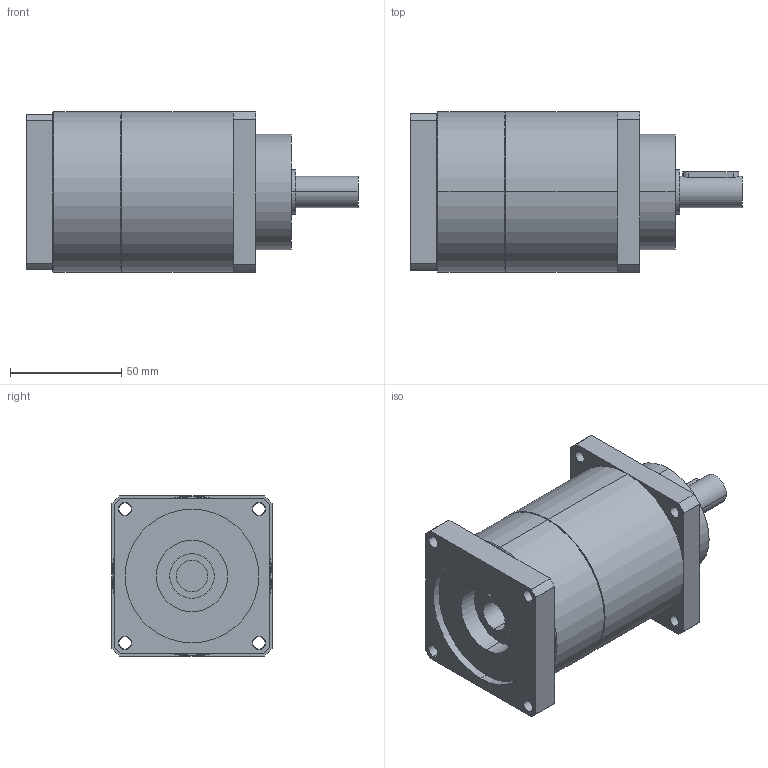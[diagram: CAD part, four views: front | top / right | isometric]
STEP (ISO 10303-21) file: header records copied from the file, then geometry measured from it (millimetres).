
FILE_DESCRIPTION(('CoCreate Modeling STEP Export'),'2;1');
FILE_NAME('GPT75_ig-9-12-16-20-25-28-35-40-50-70-100_14_B5T_14_P30.stp','2014-08-27T13:38:14',(''),(''),'CoCreate Modeling STEP processor for AP214 (Solid Model)','CoCreate Modeling 16.00C 25-Feb-2009 (C) Parametric Technology GmbH','');
FILE_SCHEMA(('AUTOMOTIVE_DESIGN { 1 0 10303 214 1 1 1 1 }'));
Length unit declared in the file: millimetre
Products named in the file (2): GPT75_ig-9-12-16-20-25-28-35-40-50-70-100_14_B5T_14_P30
Assembly tree (1 placements, depth 2):
  GPT75_ig-9-12-16-20-25-28-35-40-50-70-100_14_B5T_14_P30
    GPT75_ig-9-12-16-20-25-28-35-40-50-70-100_14_B5T_14_P30
Bounding box: 149 x 72 x 72 mm (x, y, z)
Volume: 456106.6 mm3; surface area: 45288.1 mm2
Topology: 1 solids, 1 shells, 84 faces, 210 edges, 137 vertices
Faces by surface type: cylinder 46, plane 34, cone 4
Entity records: 2588 total; most frequent: CARTESIAN_POINT 732, ORIENTED_EDGE 420, DIRECTION 326, EDGE_CURVE 210, VERTEX_POINT 137, AXIS2_PLACEMENT_3D 119, EDGE_LOOP 109, VECTOR 88
